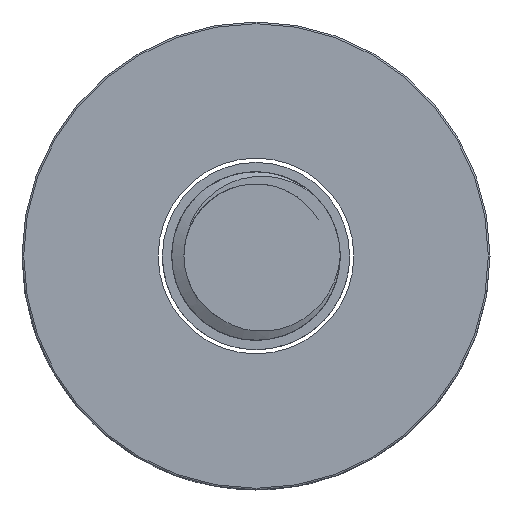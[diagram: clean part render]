
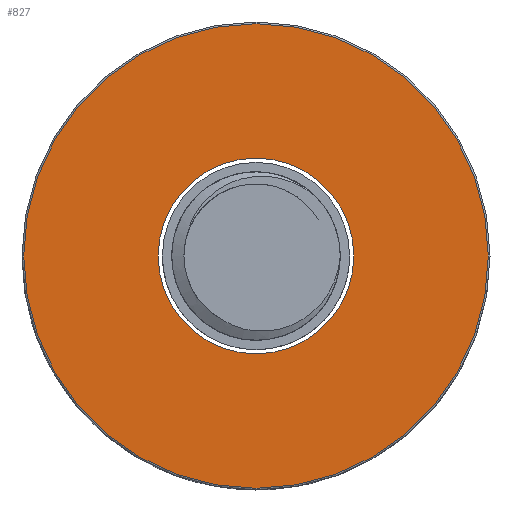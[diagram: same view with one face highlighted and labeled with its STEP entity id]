
A CAD part, front view. The second image highlights one B-rep face of the part: STEP entity #827.
In plain terms, the highlighted planar face has unit normal (0, -1, 0).
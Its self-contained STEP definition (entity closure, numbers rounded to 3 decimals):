
#21=FACE_BOUND('',#128,.T.);
#28=PLANE('',#905);
#79=FACE_OUTER_BOUND('',#127,.T.);
#127=EDGE_LOOP('',(#739,#740));
#128=EDGE_LOOP('',(#741));
#145=CIRCLE('',#897,27.3);
#150=CIRCLE('',#902,27.3);
#152=CIRCLE('',#906,11.5);
#365=VERTEX_POINT('',#5241);
#366=VERTEX_POINT('',#5242);
#372=VERTEX_POINT('',#5273);
#487=EDGE_CURVE('',#365,#366,#145,.T.);
#492=EDGE_CURVE('',#366,#365,#150,.T.);
#496=EDGE_CURVE('',#372,#372,#152,.T.);
#739=ORIENTED_EDGE('',*,*,#487,.F.);
#740=ORIENTED_EDGE('',*,*,#492,.F.);
#741=ORIENTED_EDGE('',*,*,#496,.T.);
#827=ADVANCED_FACE('',(#79,#21),#28,.T.);
#897=AXIS2_PLACEMENT_3D('',#5243,#1044,#1045);
#902=AXIS2_PLACEMENT_3D('',#5251,#1054,#1055);
#905=AXIS2_PLACEMENT_3D('',#5272,#1061,#1062);
#906=AXIS2_PLACEMENT_3D('',#5274,#1063,#1064);
#1044=DIRECTION('center_axis',(0.,1.,0.));
#1045=DIRECTION('ref_axis',(-1.,0.,0.));
#1054=DIRECTION('center_axis',(0.,1.,0.));
#1055=DIRECTION('ref_axis',(-1.,0.,0.));
#1061=DIRECTION('center_axis',(0.,-1.,0.));
#1062=DIRECTION('ref_axis',(0.,0.,1.));
#1063=DIRECTION('center_axis',(0.,1.,0.));
#1064=DIRECTION('ref_axis',(1.,0.,0.));
#5241=CARTESIAN_POINT('',(27.3,-19.,0.));
#5242=CARTESIAN_POINT('',(0.,-19.,27.3));
#5243=CARTESIAN_POINT('Origin',(0.,-19.,0.));
#5251=CARTESIAN_POINT('Origin',(0.,-19.,0.));
#5272=CARTESIAN_POINT('Origin',(27.5,-19.,0.));
#5273=CARTESIAN_POINT('',(-11.5,-19.,0.));
#5274=CARTESIAN_POINT('Origin',(0.,-19.,0.));
